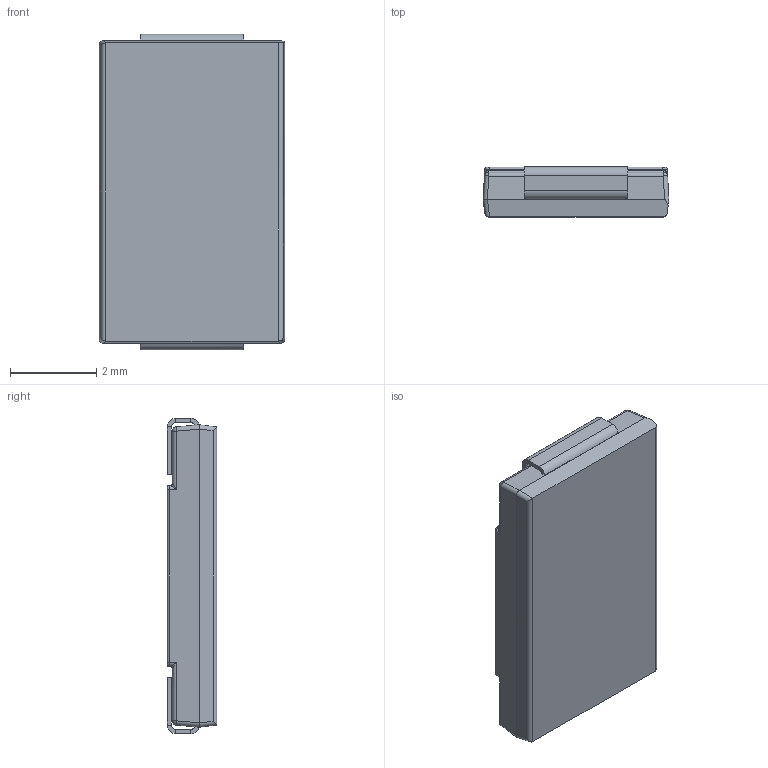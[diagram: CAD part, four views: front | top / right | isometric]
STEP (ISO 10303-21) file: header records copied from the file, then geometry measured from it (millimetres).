
FILE_DESCRIPTION (( 'STEP AP214' ), '1' );
FILE_NAME ('D12.STEP', '2019-08-06T02:30:32', ( '全社標準PC（ver1803）' ), ( 'パナソニック株式会社' ), 'SwSTEP 2.0', 'SolidWorks 2019', '' );
FILE_SCHEMA (( 'AUTOMOTIVE_DESIGN' ));
Length unit declared in the file: millimetre
Products named in the file (1): D12
Bounding box: 4.3 x 1.15 x 7.3 mm (x, y, z)
Surface area: 100.6 mm2 (no closed solid volume)
Topology: 0 solids, 3 shells, 84 faces, 214 edges, 122 vertices
Faces by surface type: plane 40, cylinder 32, bspline 8, sphere 4
Entity records: 3450 total; most frequent: CARTESIAN_POINT 690, ORIENTED_EDGE 378, DIRECTION 363, EDGE_CURVE 206, AXIS2_PLACEMENT_3D 123, VERTEX_POINT 122, LINE 117, VECTOR 117
